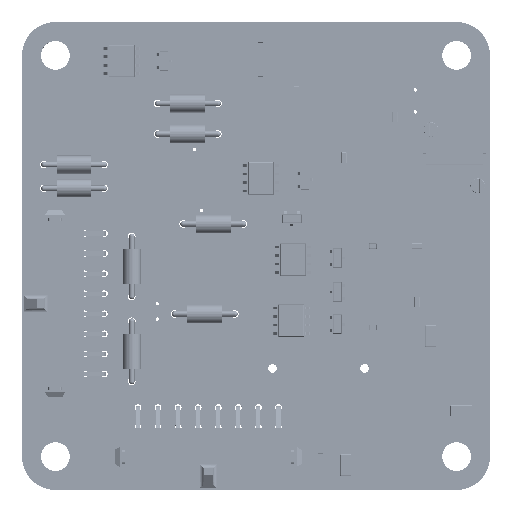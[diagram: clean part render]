
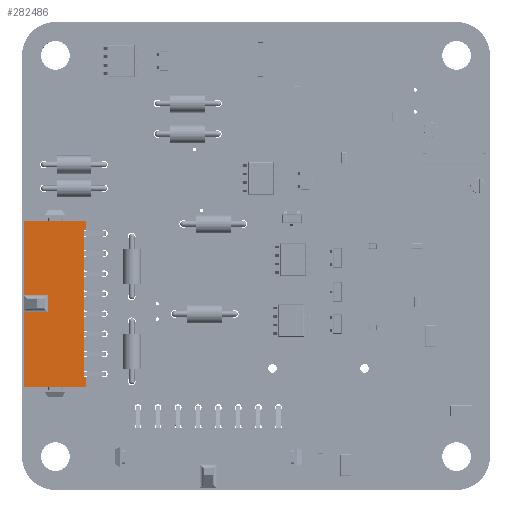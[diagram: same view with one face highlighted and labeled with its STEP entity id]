
A CAD part, top view. The second image highlights one B-rep face of the part: STEP entity #282486.
In plain terms, the highlighted planar face has unit normal (0, 0, 1).
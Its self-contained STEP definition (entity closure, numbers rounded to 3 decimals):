
#21690=PLANE('',#304056);
#37213=FACE_OUTER_BOUND('',#53377,.T.);
#53377=EDGE_LOOP('',(#259919,#259920,#259921,#259922,#259923,#259924,#259925,
#259926,#259927,#259928,#259929,#259930));
#80234=LINE('',#499989,#108375);
#80238=LINE('',#499996,#108379);
#80437=LINE('',#500411,#108578);
#80506=LINE('',#500547,#108647);
#80507=LINE('',#500549,#108648);
#80508=LINE('',#500551,#108649);
#80509=LINE('',#500552,#108650);
#80510=LINE('',#500554,#108651);
#80511=LINE('',#500556,#108652);
#80512=LINE('',#500557,#108653);
#80513=LINE('',#500559,#108654);
#80514=LINE('',#500560,#108655);
#108375=VECTOR('',#370851,1.);
#108379=VECTOR('',#370855,1.);
#108578=VECTOR('',#371092,1.);
#108647=VECTOR('',#371165,1.);
#108648=VECTOR('',#371166,1.);
#108649=VECTOR('',#371167,1.);
#108650=VECTOR('',#371168,1.);
#108651=VECTOR('',#371169,1.);
#108652=VECTOR('',#371170,1.);
#108653=VECTOR('',#371171,1.);
#108654=VECTOR('',#371172,1.);
#108655=VECTOR('',#371173,1.);
#140827=VERTEX_POINT('',#499985);
#140828=VERTEX_POINT('',#499986);
#140829=VERTEX_POINT('',#499988);
#140832=VERTEX_POINT('',#499994);
#141028=VERTEX_POINT('',#500409);
#141029=VERTEX_POINT('',#500410);
#141094=VERTEX_POINT('',#500546);
#141095=VERTEX_POINT('',#500548);
#141096=VERTEX_POINT('',#500550);
#141097=VERTEX_POINT('',#500553);
#141098=VERTEX_POINT('',#500555);
#141099=VERTEX_POINT('',#500558);
#180705=EDGE_CURVE('',#140829,#140828,#80234,.T.);
#180709=EDGE_CURVE('',#140827,#140832,#80238,.T.);
#180914=EDGE_CURVE('',#141028,#141029,#80437,.T.);
#180983=EDGE_CURVE('',#140827,#141094,#80506,.T.);
#180984=EDGE_CURVE('',#140832,#141095,#80507,.T.);
#180985=EDGE_CURVE('',#141096,#141095,#80508,.T.);
#180986=EDGE_CURVE('',#141096,#141029,#80509,.T.);
#180987=EDGE_CURVE('',#141097,#141028,#80510,.T.);
#180988=EDGE_CURVE('',#141098,#141097,#80511,.T.);
#180989=EDGE_CURVE('',#140829,#141098,#80512,.T.);
#180990=EDGE_CURVE('',#141099,#140828,#80513,.T.);
#180991=EDGE_CURVE('',#141099,#141094,#80514,.T.);
#259919=ORIENTED_EDGE('',*,*,#180983,.F.);
#259920=ORIENTED_EDGE('',*,*,#180709,.T.);
#259921=ORIENTED_EDGE('',*,*,#180984,.T.);
#259922=ORIENTED_EDGE('',*,*,#180985,.F.);
#259923=ORIENTED_EDGE('',*,*,#180986,.T.);
#259924=ORIENTED_EDGE('',*,*,#180914,.F.);
#259925=ORIENTED_EDGE('',*,*,#180987,.F.);
#259926=ORIENTED_EDGE('',*,*,#180988,.F.);
#259927=ORIENTED_EDGE('',*,*,#180989,.F.);
#259928=ORIENTED_EDGE('',*,*,#180705,.T.);
#259929=ORIENTED_EDGE('',*,*,#180990,.F.);
#259930=ORIENTED_EDGE('',*,*,#180991,.T.);
#282486=ADVANCED_FACE('',(#37213),#21690,.T.);
#304056=AXIS2_PLACEMENT_3D('',#500545,#371163,#371164);
#370851=DIRECTION('',(0.,-1.,0.));
#370855=DIRECTION('',(0.,-1.,0.));
#371092=DIRECTION('',(0.,-1.,0.));
#371163=DIRECTION('center_axis',(0.,0.,
1.));
#371164=DIRECTION('ref_axis',(0.,-1.,0.));
#371165=DIRECTION('',(1.,0.,0.));
#371166=DIRECTION('',(1.,0.,0.));
#371167=DIRECTION('',(0.,-1.,0.));
#371168=DIRECTION('',(-1.,0.,0.));
#371169=DIRECTION('',(-1.,0.,0.));
#371170=DIRECTION('',(0.,-1.,0.));
#371171=DIRECTION('',(1.,0.,0.));
#371172=DIRECTION('',(-1.,0.,0.));
#371173=DIRECTION('',(0.,-1.,0.));
#499985=CARTESIAN_POINT('',(10.34,36.55,8.01));
#499986=CARTESIAN_POINT('',(10.34,39.15,8.01));
#499988=CARTESIAN_POINT('',(10.34,50.28,8.01));
#499989=CARTESIAN_POINT('',(10.34,50.28,8.01));
#499994=CARTESIAN_POINT('',(10.34,25.42,8.01));
#499996=CARTESIAN_POINT('',(10.34,36.55,8.01));
#500409=CARTESIAN_POINT('',(19.21,48.815,8.01));
#500410=CARTESIAN_POINT('',(19.21,26.885,8.01));
#500411=CARTESIAN_POINT('',(19.21,48.815,8.01));
#500545=CARTESIAN_POINT('Origin',(10.34,50.28,8.01));
#500546=CARTESIAN_POINT('',(13.831,36.55,8.01));
#500547=CARTESIAN_POINT('',(10.34,36.55,8.01));
#500548=CARTESIAN_POINT('',(19.58,25.42,8.01));
#500549=CARTESIAN_POINT('',(10.34,25.42,8.01));
#500550=CARTESIAN_POINT('',(19.58,26.885,8.01));
#500551=CARTESIAN_POINT('',(19.58,26.885,8.01));
#500552=CARTESIAN_POINT('',(19.58,26.885,8.01));
#500553=CARTESIAN_POINT('',(19.58,48.815,8.01));
#500554=CARTESIAN_POINT('',(19.58,48.815,8.01));
#500555=CARTESIAN_POINT('',(19.58,50.28,8.01));
#500556=CARTESIAN_POINT('',(19.58,50.28,8.01));
#500557=CARTESIAN_POINT('',(10.34,50.28,8.01));
#500558=CARTESIAN_POINT('',(13.831,39.15,8.01));
#500559=CARTESIAN_POINT('',(13.831,39.15,8.01));
#500560=CARTESIAN_POINT('',(13.831,39.15,8.01));
